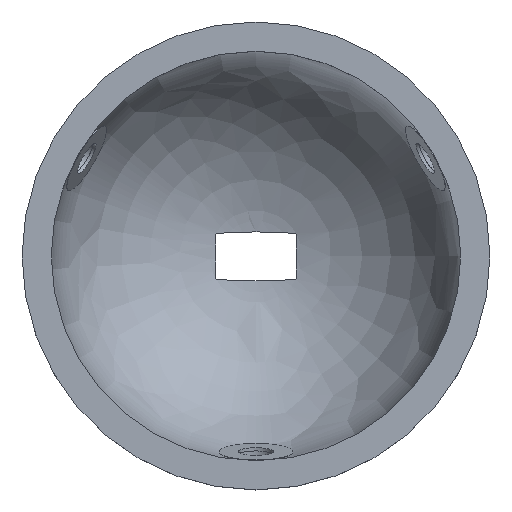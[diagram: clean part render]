
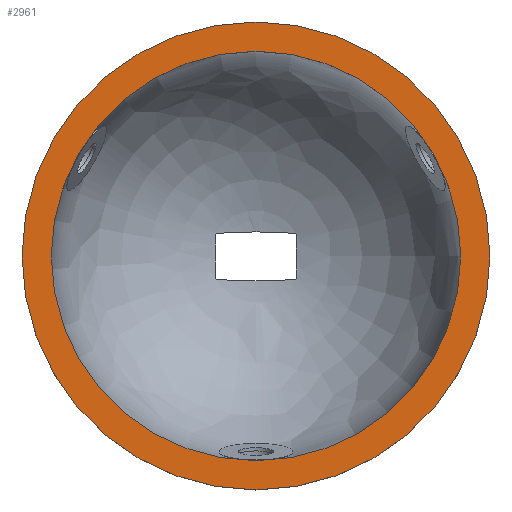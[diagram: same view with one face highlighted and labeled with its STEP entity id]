
A CAD part, top view. The second image highlights one B-rep face of the part: STEP entity #2961.
In plain terms, the highlighted planar face has unit normal (0, 0, 1).
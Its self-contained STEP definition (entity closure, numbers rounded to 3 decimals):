
#638 = CYLINDRICAL_SURFACE('',#639,21.);
#639 = AXIS2_PLACEMENT_3D('',#640,#641,#642);
#640 = CARTESIAN_POINT('',(0.,0.,-4.));
#641 = DIRECTION('',(0.,0.,1.));
#642 = DIRECTION('',(1.,0.,-0.));
#2211 = VERTEX_POINT('',#2212);
#2212 = CARTESIAN_POINT('',(21.,0.,0.));
#2233 = EDGE_CURVE('',#2211,#2211,#2234,.T.);
#2234 = SURFACE_CURVE('',#2235,(#2240,#2247),.PCURVE_S1.);
#2235 = CIRCLE('',#2236,21.);
#2236 = AXIS2_PLACEMENT_3D('',#2237,#2238,#2239);
#2237 = CARTESIAN_POINT('',(0.,0.,0.));
#2238 = DIRECTION('',(0.,0.,1.));
#2239 = DIRECTION('',(1.,0.,-0.));
#2240 = PCURVE('',#638,#2241);
#2241 = DEFINITIONAL_REPRESENTATION('',(#2242),#2246);
#2242 = LINE('',#2243,#2244);
#2243 = CARTESIAN_POINT('',(0.,4.));
#2244 = VECTOR('',#2245,1.);
#2245 = DIRECTION('',(1.,0.));
#2246 = ( GEOMETRIC_REPRESENTATION_CONTEXT(2) 
PARAMETRIC_REPRESENTATION_CONTEXT() REPRESENTATION_CONTEXT('2D SPACE',''
  ) );
#2247 = PCURVE('',#2248,#2253);
#2248 = PLANE('',#2249);
#2249 = AXIS2_PLACEMENT_3D('',#2250,#2251,#2252);
#2250 = CARTESIAN_POINT('',(0.,0.,0.));
#2251 = DIRECTION('',(0.,0.,1.));
#2252 = DIRECTION('',(1.,0.,-0.));
#2253 = DEFINITIONAL_REPRESENTATION('',(#2254),#2258);
#2254 = CIRCLE('',#2255,21.);
#2255 = AXIS2_PLACEMENT_2D('',#2256,#2257);
#2256 = CARTESIAN_POINT('',(0.,0.));
#2257 = DIRECTION('',(1.,-0.));
#2258 = ( GEOMETRIC_REPRESENTATION_CONTEXT(2) 
PARAMETRIC_REPRESENTATION_CONTEXT() REPRESENTATION_CONTEXT('2D SPACE',''
  ) );
#2961 = ADVANCED_FACE('',(#2962,#2965),#2248,.T.);
#2962 = FACE_BOUND('',#2963,.F.);
#2963 = EDGE_LOOP('',(#2964));
#2964 = ORIENTED_EDGE('',*,*,#2233,.T.);
#2965 = FACE_BOUND('',#2966,.F.);
#2966 = EDGE_LOOP('',(#2967));
#2967 = ORIENTED_EDGE('',*,*,#2968,.F.);
#2968 = EDGE_CURVE('',#2969,#2969,#2971,.T.);
#2969 = VERTEX_POINT('',#2970);
#2970 = CARTESIAN_POINT('',(24.,0.,0.));
#2971 = SURFACE_CURVE('',#2972,(#2977,#2984),.PCURVE_S1.);
#2972 = CIRCLE('',#2973,24.);
#2973 = AXIS2_PLACEMENT_3D('',#2974,#2975,#2976);
#2974 = CARTESIAN_POINT('',(0.,0.,0.));
#2975 = DIRECTION('',(0.,0.,1.));
#2976 = DIRECTION('',(1.,0.,-0.));
#2977 = PCURVE('',#2248,#2978);
#2978 = DEFINITIONAL_REPRESENTATION('',(#2979),#2983);
#2979 = CIRCLE('',#2980,24.);
#2980 = AXIS2_PLACEMENT_2D('',#2981,#2982);
#2981 = CARTESIAN_POINT('',(0.,0.));
#2982 = DIRECTION('',(1.,-0.));
#2983 = ( GEOMETRIC_REPRESENTATION_CONTEXT(2) 
PARAMETRIC_REPRESENTATION_CONTEXT() REPRESENTATION_CONTEXT('2D SPACE',''
  ) );
#2984 = PCURVE('',#2985,#2990);
#2985 = CYLINDRICAL_SURFACE('',#2986,24.);
#2986 = AXIS2_PLACEMENT_3D('',#2987,#2988,#2989);
#2987 = CARTESIAN_POINT('',(0.,0.,0.));
#2988 = DIRECTION('',(-0.,-0.,-1.));
#2989 = DIRECTION('',(1.,0.,0.));
#2990 = DEFINITIONAL_REPRESENTATION('',(#2991),#2995);
#2991 = LINE('',#2992,#2993);
#2992 = CARTESIAN_POINT('',(-0.,0.));
#2993 = VECTOR('',#2994,1.);
#2994 = DIRECTION('',(-1.,0.));
#2995 = ( GEOMETRIC_REPRESENTATION_CONTEXT(2) 
PARAMETRIC_REPRESENTATION_CONTEXT() REPRESENTATION_CONTEXT('2D SPACE',''
  ) );
